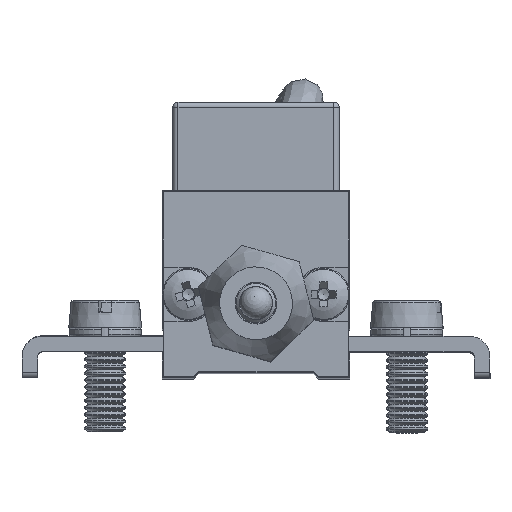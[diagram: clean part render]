
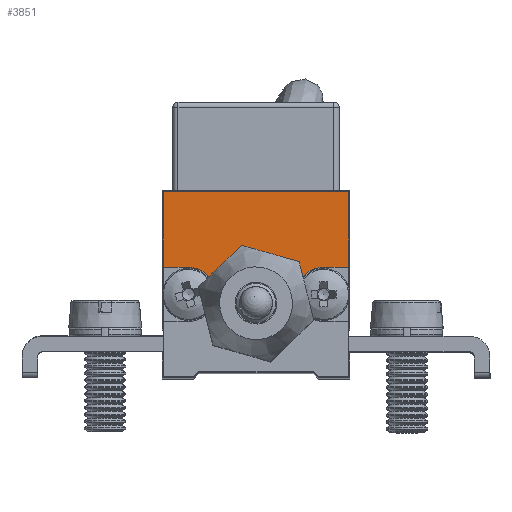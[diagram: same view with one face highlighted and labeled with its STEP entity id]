
A CAD part, top view. The second image highlights one B-rep face of the part: STEP entity #3851.
In plain terms, the highlighted planar face has unit normal (0, 0, 1) as drawn and (0, 0, -1) by its records, which use the part's own axes.
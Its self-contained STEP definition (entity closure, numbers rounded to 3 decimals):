
#339 = DIRECTION ( 'NONE',  ( 0., 0., -1. ) ) ;
#822 = CARTESIAN_POINT ( 'NONE',  ( 15.4, 7.9, -4. ) ) ;
#915 = VERTEX_POINT ( 'NONE', #6937 ) ;
#978 = ORIENTED_EDGE ( 'NONE', *, *, #7471, .F. ) ;
#992 = AXIS2_PLACEMENT_3D ( 'NONE', #2492, #3690, #8489 ) ;
#1206 = DIRECTION ( 'NONE',  ( 0., -1., 0. ) ) ;
#1233 = EDGE_CURVE ( 'NONE', #6129, #3165, #1242, .T. ) ;
#1242 = LINE ( 'NONE', #12063, #7083 ) ;
#1766 = VECTOR ( 'NONE', #12485, 1000. ) ;
#1812 = CARTESIAN_POINT ( 'NONE',  ( 17.8, 10.5, -4. ) ) ;
#2084 = ORIENTED_EDGE ( 'NONE', *, *, #5119, .F. ) ;
#2308 = VERTEX_POINT ( 'NONE', #13612 ) ;
#2396 = CARTESIAN_POINT ( 'NONE',  ( 17.8, 10.5, -4. ) ) ;
#2492 = CARTESIAN_POINT ( 'NONE',  ( 2.4, 7.9, -4. ) ) ;
#2883 = CIRCLE ( 'NONE', #5896, 4.5 ) ;
#2920 = LINE ( 'NONE', #6761, #5271 ) ;
#3110 = CARTESIAN_POINT ( 'NONE',  ( 4.831, 8.822, -4. ) ) ;
#3165 = VERTEX_POINT ( 'NONE', #7960 ) ;
#3544 = EDGE_LOOP ( 'NONE', ( #5534, #13200, #2084, #13201, #978, #7895, #6214, #7391 ) ) ;
#3690 = DIRECTION ( 'NONE',  ( 0., 0., -1. ) ) ;
#3851 = ADVANCED_FACE ( 'NONE', ( #8742 ), #10365, .F. ) ;
#3919 = DIRECTION ( 'NONE',  ( 1., 0., 0. ) ) ;
#4092 = EDGE_CURVE ( 'NONE', #10198, #14870, #8015, .T. ) ;
#4312 = DIRECTION ( 'NONE',  ( 0., 0., -1. ) ) ;
#4558 = DIRECTION ( 'NONE',  ( 1., 0., 0. ) ) ;
#5119 = EDGE_CURVE ( 'NONE', #3165, #12850, #2920, .T. ) ;
#5175 = VERTEX_POINT ( 'NONE', #2396 ) ;
#5271 = VECTOR ( 'NONE', #1206, 1000. ) ;
#5503 = CARTESIAN_POINT ( 'NONE',  ( 17.8, 10.5, -4. ) ) ;
#5511 = DIRECTION ( 'NONE',  ( 1., 0., 0. ) ) ;
#5534 = ORIENTED_EDGE ( 'NONE', *, *, #4092, .F. ) ;
#5700 = DIRECTION ( 'NONE',  ( 0., 0., 1. ) ) ;
#5896 = AXIS2_PLACEMENT_3D ( 'NONE', #10796, #339, #3919 ) ;
#6129 = VERTEX_POINT ( 'NONE', #9529 ) ;
#6214 = ORIENTED_EDGE ( 'NONE', *, *, #10356, .F. ) ;
#6761 = CARTESIAN_POINT ( 'NONE',  ( 0., 2.5, -4. ) ) ;
#6798 = EDGE_CURVE ( 'NONE', #14870, #915, #2883, .T. ) ;
#6937 = CARTESIAN_POINT ( 'NONE',  ( 12.969, 8.822, -4. ) ) ;
#7083 = VECTOR ( 'NONE', #14571, 1000. ) ;
#7328 = AXIS2_PLACEMENT_3D ( 'NONE', #822, #4312, #5511 ) ;
#7391 = ORIENTED_EDGE ( 'NONE', *, *, #6798, .F. ) ;
#7471 = EDGE_CURVE ( 'NONE', #5175, #6129, #9967, .T. ) ;
#7895 = ORIENTED_EDGE ( 'NONE', *, *, #9898, .F. ) ;
#7906 = LINE ( 'NONE', #5503, #8636 ) ;
#7960 = CARTESIAN_POINT ( 'NONE',  ( 0., 17.8, -4. ) ) ;
#7964 = EDGE_CURVE ( 'NONE', #12850, #10198, #13133, .T. ) ;
#8015 = CIRCLE ( 'NONE', #992, 2.6 ) ;
#8489 = DIRECTION ( 'NONE',  ( 1., 0., 0. ) ) ;
#8636 = VECTOR ( 'NONE', #14838, 1000. ) ;
#8742 = FACE_OUTER_BOUND ( 'NONE', #3544, .T. ) ;
#9194 = AXIS2_PLACEMENT_3D ( 'NONE', #11567, #5700, #4558 ) ;
#9529 = CARTESIAN_POINT ( 'NONE',  ( 17.8, 17.8, -4. ) ) ;
#9898 = EDGE_CURVE ( 'NONE', #2308, #5175, #7906, .T. ) ;
#9959 = DIRECTION ( 'NONE',  ( 1., 0., 0. ) ) ;
#9967 = LINE ( 'NONE', #13777, #1766 ) ;
#10198 = VERTEX_POINT ( 'NONE', #11172 ) ;
#10229 = VECTOR ( 'NONE', #9959, 1000. ) ;
#10356 = EDGE_CURVE ( 'NONE', #915, #2308, #14833, .T. ) ;
#10365 = PLANE ( 'NONE',  #9194 ) ;
#10796 = CARTESIAN_POINT ( 'NONE',  ( 8.9, 6.9, -4. ) ) ;
#11172 = CARTESIAN_POINT ( 'NONE',  ( 2.4, 10.5, -4. ) ) ;
#11567 = CARTESIAN_POINT ( 'NONE',  ( 17.8, 0., -4. ) ) ;
#12063 = CARTESIAN_POINT ( 'NONE',  ( 17.8, 17.8, -4. ) ) ;
#12485 = DIRECTION ( 'NONE',  ( 0., 1., 0. ) ) ;
#12850 = VERTEX_POINT ( 'NONE', #13516 ) ;
#13133 = LINE ( 'NONE', #1812, #10229 ) ;
#13200 = ORIENTED_EDGE ( 'NONE', *, *, #7964, .F. ) ;
#13201 = ORIENTED_EDGE ( 'NONE', *, *, #1233, .F. ) ;
#13516 = CARTESIAN_POINT ( 'NONE',  ( 0., 10.5, -4. ) ) ;
#13612 = CARTESIAN_POINT ( 'NONE',  ( 15.4, 10.5, -4. ) ) ;
#13777 = CARTESIAN_POINT ( 'NONE',  ( 17.8, 0., -4. ) ) ;
#14571 = DIRECTION ( 'NONE',  ( -1., 0., 0. ) ) ;
#14833 = CIRCLE ( 'NONE', #7328, 2.6 ) ;
#14838 = DIRECTION ( 'NONE',  ( 1., 0., 0. ) ) ;
#14870 = VERTEX_POINT ( 'NONE', #3110 ) ;
